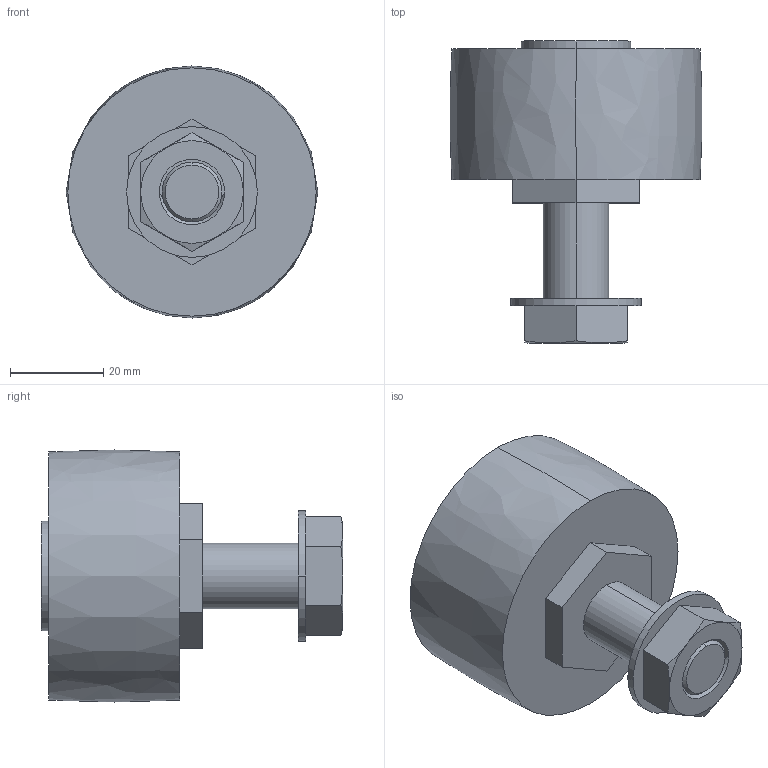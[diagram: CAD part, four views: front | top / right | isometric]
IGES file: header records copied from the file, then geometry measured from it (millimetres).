
Start section: 3D InterOp IGES (v. 2019 1.0.2), Spatial Corp. Copyright (c) 1999-2017.
Global section: file name: LR 54 C.igs; native system: Spatial Corp.; preprocessor: 3D InterOp GENERIC/IGES 3.0; author: Noname; organization: Noname; date: 20220628.172232; units: millimetre
Bounding box: 53.91 x 64.7 x 54 mm (x, y, z)
Surface area: 12404.2 mm2 (no closed solid volume)
Topology: 0 solids, 0 shells, 45 faces, 232 edges, 232 vertices
Faces by surface type: extrusion 27, revolution 16, bspline 2
